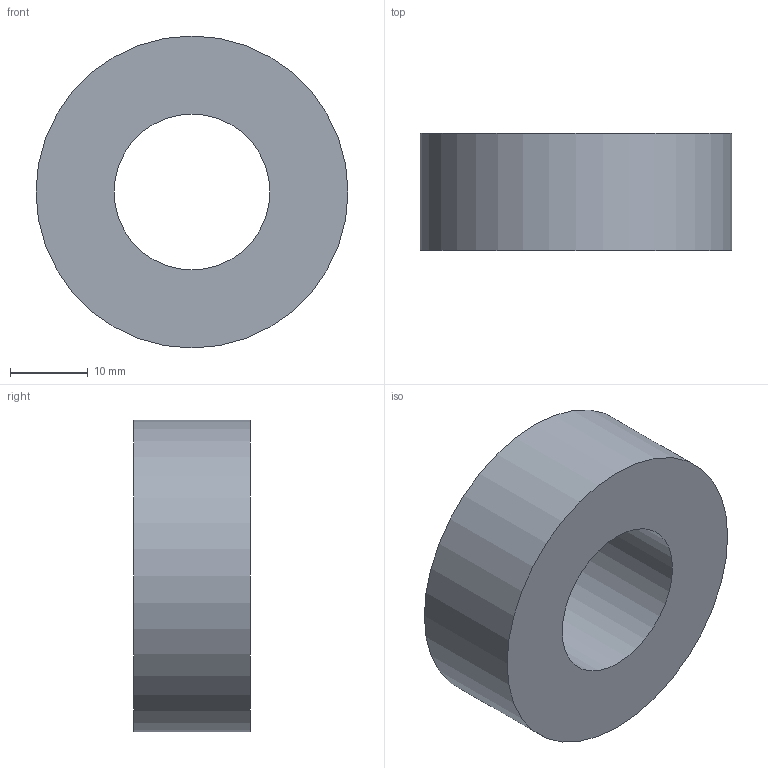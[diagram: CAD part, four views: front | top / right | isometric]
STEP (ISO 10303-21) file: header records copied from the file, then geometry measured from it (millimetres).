
FILE_DESCRIPTION (( 'STEP AP214' ), '1' );
FILE_NAME ('10FF.040.004.15NR.STEP', '2026-03-25T15:07:17', ( '' ), ( '' ), 'SwSTEP 2.0', 'SolidWorks 2025', '' );
FILE_SCHEMA (( 'AUTOMOTIVE_DESIGN' ));
Length unit declared in the file: millimetre
Products named in the file (1): 10FF.040.004.15NR
Bounding box: 40 x 15 x 40 mm (x, y, z)
Volume: 14137.2 mm3; surface area: 4712.4 mm2
Topology: 1 solids, 1 shells, 4 faces, 6 edges, 4 vertices
Faces by surface type: cylinder 2, plane 2
Full cylindrical faces by diameter (mm): 20 x1, 40 x1
Entity records: 111 total; most frequent: DIRECTION 18, CARTESIAN_POINT 13, AXIS2_PLACEMENT_3D 9, EDGE_LOOP 8, ORIENTED_EDGE 8, FACE_OUTER_BOUND 6, VERTEX_POINT 4, CIRCLE 4
